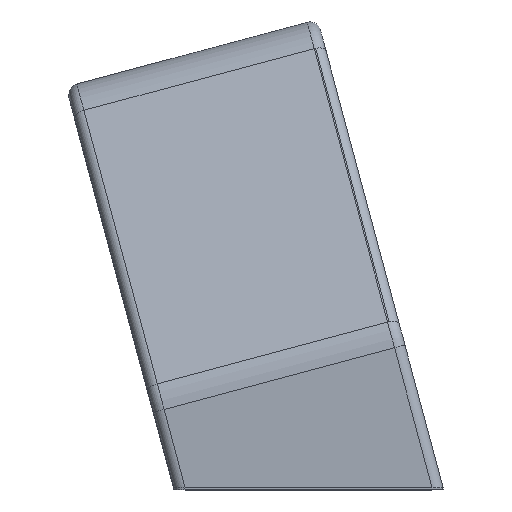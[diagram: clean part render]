
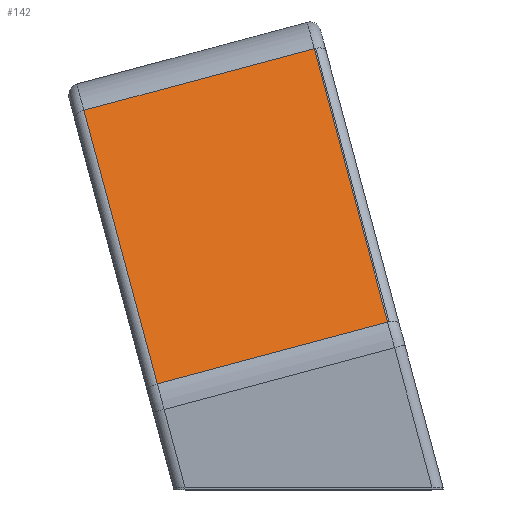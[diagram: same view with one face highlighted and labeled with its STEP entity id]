
A CAD part, top view. The second image highlights one B-rep face of the part: STEP entity #142.
In plain terms, the highlighted planar face has unit normal (-0.128, 0.476, 0.87).
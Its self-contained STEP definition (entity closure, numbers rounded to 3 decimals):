
#9 = ORIENTED_EDGE ( 'NONE', *, *, #1254, .T. ) ;
#142 = ADVANCED_FACE ( 'NONE', ( #2198 ), #1754, .F. ) ;
#165 = CARTESIAN_POINT ( 'NONE',  ( -26.251, 8.531, 64. ) ) ;
#224 = LINE ( 'NONE', #165, #441 ) ;
#225 = VERTEX_POINT ( 'NONE', #945 ) ;
#246 = DIRECTION ( 'NONE',  ( 0.128, -0.476, -0.87 ) ) ;
#419 = DIRECTION ( 'NONE',  ( 0.966, 0.259, 0. ) ) ;
#441 = VECTOR ( 'NONE', #669, 1000. ) ;
#557 = CARTESIAN_POINT ( 'NONE',  ( -5.154, 15.371, 63.35 ) ) ;
#597 = VERTEX_POINT ( 'NONE', #1082 ) ;
#607 = VECTOR ( 'NONE', #419, 1000. ) ;
#667 = ORIENTED_EDGE ( 'NONE', *, *, #1894, .T. ) ;
#669 = DIRECTION ( 'NONE',  ( 0.225, -0.84, 0.493 ) ) ;
#698 = LINE ( 'NONE', #1354, #718 ) ;
#718 = VECTOR ( 'NONE', #1196, 1000. ) ;
#745 = CARTESIAN_POINT ( 'NONE',  ( -4.188, 15.63, 63.35 ) ) ;
#779 = VERTEX_POINT ( 'NONE', #1757 ) ;
#906 = AXIS2_PLACEMENT_3D ( 'NONE', #1605, #246, #1745 ) ;
#945 = CARTESIAN_POINT ( 'NONE',  ( -11.966, 40.793, 48.436 ) ) ;
#996 = DIRECTION ( 'NONE',  ( -0.225, 0.84, -0.493 ) ) ;
#1015 = VERTEX_POINT ( 'NONE', #557 ) ;
#1076 = LINE ( 'NONE', #745, #607 ) ;
#1082 = CARTESIAN_POINT ( 'NONE',  ( -33.359, 35.06, 48.436 ) ) ;
#1196 = DIRECTION ( 'NONE',  ( -0.966, -0.259, 0. ) ) ;
#1254 = EDGE_CURVE ( 'NONE', #779, #1015, #1076, .T. ) ;
#1354 = CARTESIAN_POINT ( 'NONE',  ( -43.638, 32.306, 48.436 ) ) ;
#1514 = ORIENTED_EDGE ( 'NONE', *, *, #1824, .T. ) ;
#1521 = VECTOR ( 'NONE', #996, 1000. ) ;
#1605 = CARTESIAN_POINT ( 'NONE',  ( -36.529, 5.777, 64. ) ) ;
#1745 = DIRECTION ( 'NONE',  ( 0., 0.877, -0.48 ) ) ;
#1749 = ORIENTED_EDGE ( 'NONE', *, *, #2020, .T. ) ;
#1754 = PLANE ( 'NONE',  #906 ) ;
#1757 = CARTESIAN_POINT ( 'NONE',  ( -26.547, 9.639, 63.35 ) ) ;
#1824 = EDGE_CURVE ( 'NONE', #597, #779, #224, .T. ) ;
#1894 = EDGE_CURVE ( 'NONE', #1015, #225, #1971, .T. ) ;
#1971 = LINE ( 'NONE', #2015, #1521 ) ;
#2015 = CARTESIAN_POINT ( 'NONE',  ( -4.857, 14.263, 64. ) ) ;
#2020 = EDGE_CURVE ( 'NONE', #225, #597, #698, .T. ) ;
#2049 = EDGE_LOOP ( 'NONE', ( #1749, #1514, #9, #667 ) ) ;
#2198 = FACE_OUTER_BOUND ( 'NONE', #2049, .T. ) ;
